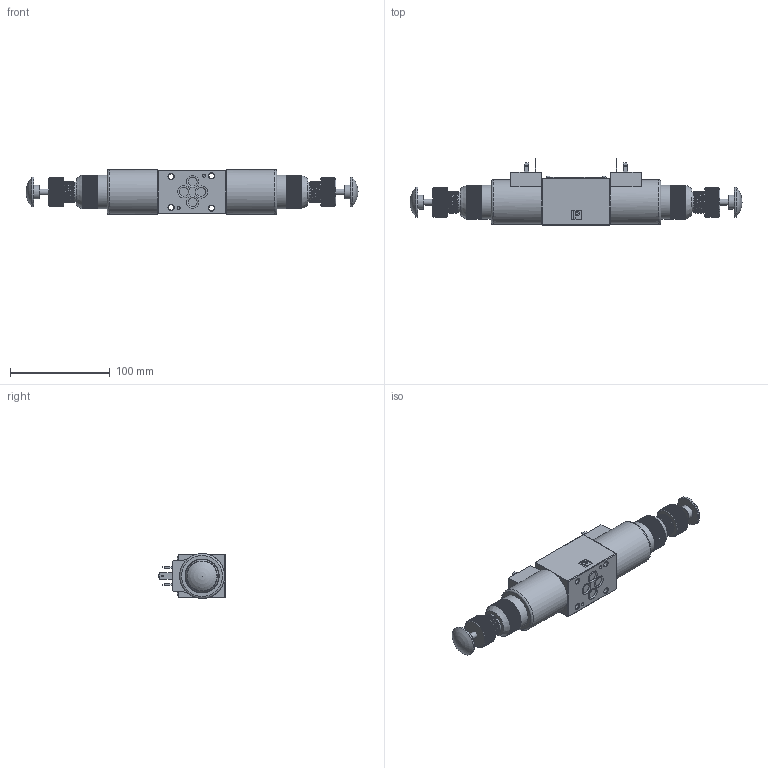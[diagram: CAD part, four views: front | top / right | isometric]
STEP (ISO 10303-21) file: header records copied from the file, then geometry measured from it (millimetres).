
FILE_DESCRIPTION(/* description */ (''),/* implementation_level */ '2;1');
FILE_NAME(/* name */ '4WE6J-6XJ-CG28N12K4三维模型.stp',/* time_stamp */ '2024-06-26T14:18:10+08:00',/* author */ (''),/* organization */ (''),/* preprocessor_version */ 'ST-DEVELOPER v16.7',/* originating_system */ 'SIEMENS PLM Software NX 12.0',/* authorisation */ '');
FILE_SCHEMA (('AUTOMOTIVE_DESIGN { 1 0 10303 214 3 1 1 1 }'));
Length unit declared in the file: millimetre
Products named in the file (1): 1111
Bounding box: 332.6 x 66.93 x 45 mm (x, y, z)
Volume: 254472.7 mm3; surface area: 98108.7 mm2
Topology: 46 solids, 54 shells, 5443 faces, 15816 edges, 10515 vertices
Faces by surface type: plane 4371, cylinder 917, cone 49, extrusion 33, bspline 33, torus 32, sphere 8
Full cylindrical faces by diameter (mm): 1.5 x2, 1.6 x4, 1.7 x2, 1.8 x4, 2 x6, 2.2 x2, 2.5 x2, 2.8 x4, 3 x2, 4 x2, 4.2 x16, 5.3 x4, 6 x2, 8 x4, 9.4 x4, 10.5 x2, 11.5 x2, 12 x2, 12.2 x2, 12.9 x2, 14 x2, 15 x2, 20 x2, 23.3 x2, 24 x2, 28.5 x2, 30 x2, 30.5 x2, 34 x2, 37 x2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
Entity records: 203469 total; most frequent: CARTESIAN_POINT 66681, ORIENTED_EDGE 31086, DIRECTION 24376, EDGE_CURVE 15543, VERTEX_POINT 10424, AXIS2_PLACEMENT_3D 8659, VECTOR 7058, LINE 7025
